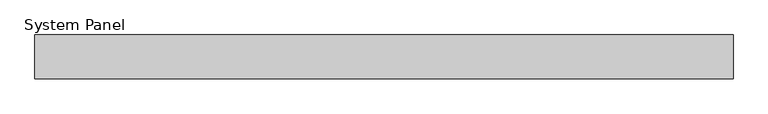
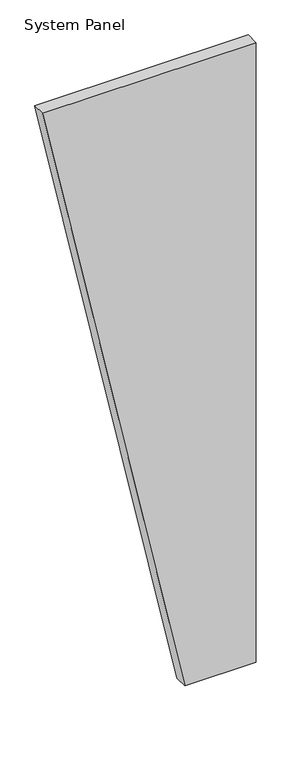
"""IFC4 building model written with IfcOpenShell, lengths in millimetres: plate geometry, System Panel : Equitilt 75mm Vertical - Plain RHEA - EPS-FR."""

import ifcopenshell
import ifcopenshell.guid

model = None  # the IFC model being written
_history = None  # IfcOwnerHistory: only IFC2X3 demands one
_inside = {}  # id of a spatial element -> (the spatial element, [elements in it])
_under = {}  # id of a project, library or spatial element -> (it, [spatial elements below it])
_declared = {}  # id of a project -> (the project, [libraries it declares])
_typed = {}  # id of a type object -> (the type object, [elements of that type])
_made_of = {}  # id of a material, layer set ... -> (it, [elements and type objects made of it])


def new_model(schema):
    """Start an empty IFC model of exactly this schema.

    Asked for "IFC4X3", IfcOpenShell would pick the latest addendum, in which some entities
    have other attributes; the version numbers below select the first issue.
    IFC2X3 requires an IfcOwnerHistory on every rooted entity: one is made here for all.
    """
    global model, _history
    if schema == "IFC4X3":
        model = ifcopenshell.file(schema_version=(4, 3, 0, 0))
    else:
        model = ifcopenshell.file(schema=schema)
    _inside.clear()
    _under.clear()
    _declared.clear()
    _typed.clear()
    _made_of.clear()
    _history = None
    if model.schema == "IFC2X3":
        org = make("IfcOrganization", Name="unknown")
        user = make(
            "IfcPersonAndOrganization",
            ThePerson=make("IfcPerson", FamilyName="unknown"),
            TheOrganization=org,
        )
        app = make(
            "IfcApplication",
            ApplicationDeveloper=org,
            Version="unknown",
            ApplicationFullName="unknown",
            ApplicationIdentifier="unknown",
        )
        _history = make(
            "IfcOwnerHistory",
            OwningUser=user,
            OwningApplication=app,
            ChangeAction="ADDED",
            CreationDate=0,
        )
    return model


def make(cls, **values):
    """One entity of the class cls with the attributes given. An attribute that is None is left unset."""
    return model.create_entity(
        cls, **{name: value for name, value in values.items() if value is not None}
    )


def rooted(cls, **values):
    """An entity with a GlobalId (a new one), such as an element, a storey or a relation."""
    return make(cls, GlobalId=ifcopenshell.guid.new(), OwnerHistory=_history, **values)


def si_unit(unit_type, name, prefix=None):
    """IfcSIUnit, for example si_unit("LENGTHUNIT", "METRE", prefix="MILLI")."""
    return make("IfcSIUnit", UnitType=unit_type, Prefix=prefix, Name=name)


def assignment(units):
    """IfcUnitAssignment: the units of a project."""
    return None if units is None else make("IfcUnitAssignment", Units=units)


def point(xyz):
    """IfcCartesianPoint."""
    return None if xyz is None else make("IfcCartesianPoint", Coordinates=xyz)


def direction(xyz):
    """IfcDirection."""
    return None if xyz is None else make("IfcDirection", DirectionRatios=xyz)


def frame(location, z_axis=None, x_axis=None):
    """IfcAxis2Placement3D, a coordinate frame: its origin and axes. An axis left out is left unset."""
    return make(
        "IfcAxis2Placement3D",
        Location=point(location),
        Axis=direction(z_axis),
        RefDirection=direction(x_axis),
    )


def origin():
    """The frame at (0, 0, 0) with its axes left unset."""
    return frame((0.0, 0.0, 0.0))


def place(relative_to, where):
    """IfcLocalPlacement: puts the frame where relative to a parent placement (None: the world)."""
    return make(
        "IfcLocalPlacement", PlacementRelTo=relative_to, RelativePlacement=where
    )


def context(
    kind, dimensions, precision=None, world=None, true_north=None, identifier=None
):
    """IfcGeometricRepresentationContext, for example the 3D "Model" context."""
    return make(
        "IfcGeometricRepresentationContext",
        ContextIdentifier=identifier,
        ContextType=kind,
        CoordinateSpaceDimension=dimensions,
        Precision=precision,
        WorldCoordinateSystem=world,
        TrueNorth=true_north,
    )


def project(units=None, contexts=None):
    """IfcProject with its units and contexts."""
    return rooted(
        "IfcProject",
        Name="project",
        RepresentationContexts=contexts,
        UnitsInContext=assignment(units),
    )


def spatial(cls, under=None, at=None, **own):
    """A site, building, storey or space (cls), placed at a placement, below another one or the project."""
    s = rooted(cls, ObjectPlacement=at, **own)
    if under is not None:
        _under.setdefault(under.id(), (under, []))[1].append(s)
    return s


def polyline(points):
    """IfcPolyline through the points."""
    return make("IfcPolyline", Points=[point(p) for p in points])


def outline(outer, holes=None, kind="AREA"):
    """IfcArbitraryClosedProfileDef: a profile drawn as a closed curve; with holes, ...WithVoids."""
    if holes is None:
        return make("IfcArbitraryClosedProfileDef", ProfileType=kind, OuterCurve=outer)
    return make(
        "IfcArbitraryProfileDefWithVoids",
        ProfileType=kind,
        OuterCurve=outer,
        InnerCurves=holes,
    )


def extrude(swept, where, along, depth):
    """IfcExtrudedAreaSolid: the profile swept, set in the frame where, extruded along a direction by depth."""
    return make(
        "IfcExtrudedAreaSolid",
        SweptArea=swept,
        Position=where,
        ExtrudedDirection=direction(along),
        Depth=depth,
    )


def shape(context_of_items, identifier, shape_type, items):
    """IfcShapeRepresentation: the items that make up one representation, for example the "Body"."""
    return make(
        "IfcShapeRepresentation",
        ContextOfItems=context_of_items,
        RepresentationIdentifier=identifier,
        RepresentationType=shape_type,
        Items=items,
    )


def source(mapping_origin, context_of_items, identifier, shape_type, items):
    """IfcRepresentationMap: a shape defined once, which mapped items show again and again."""
    return make(
        "IfcRepresentationMap",
        MappingOrigin=mapping_origin,
        MappedRepresentation=shape(context_of_items, identifier, shape_type, items),
    )


def transform(
    local_origin,
    x_axis=None,
    y_axis=None,
    z_axis=None,
    scale=None,
    scale2=None,
    scale3=None,
    uniform=True,
):
    """IfcCartesianTransformationOperator3D, or its non-uniform kind. x_axis, y_axis, z_axis: its Axis1, 2, 3."""
    if uniform:
        return make(
            "IfcCartesianTransformationOperator3D",
            Axis1=direction(x_axis),
            Axis2=direction(y_axis),
            LocalOrigin=point(local_origin),
            Scale=scale,
            Axis3=direction(z_axis),
        )
    return make(
        "IfcCartesianTransformationOperator3DnonUniform",
        Axis1=direction(x_axis),
        Axis2=direction(y_axis),
        LocalOrigin=point(local_origin),
        Scale=scale,
        Axis3=direction(z_axis),
        Scale2=scale2,
        Scale3=scale3,
    )


def mapped(mapping_source, mapping_target):
    """IfcMappedItem: shows the shape of a source again, moved by a transform."""
    return make(
        "IfcMappedItem", MappingSource=mapping_source, MappingTarget=mapping_target
    )


def made_of(thing, what):
    """Note that an element or type object is made of a material, layer set ...; save() writes the relation."""
    if what is not None:
        _made_of.setdefault(what.id(), (what, []))[1].append(thing)
    return thing


def element(
    cls,
    number,
    at=None,
    inside=None,
    cuts=None,
    type_object=None,
    material=None,
    context=None,
    identifier="Body",
    shape_type=None,
    held_by="IfcProductDefinitionShape",
    body=None,
    shapes=None,
    **own,
):
    """One element of the class cls, such as IfcWall. Its Tag is "e" and its number.

    at: its placement. inside: the storey or other place that contains it. cuts: it is an
    opening in that element (IfcRelVoidsElement). A single representation is given by context,
    identifier, shape_type and body (its items); several are given by shapes. held_by: the class
    of the entity that holds the representations. save() writes the other relations.
    """
    e = rooted(cls, Tag="e%d" % number, ObjectPlacement=at, **own)
    if body is not None:
        shapes = [shape(context, identifier, shape_type, body)]
    if shapes is not None:
        e.Representation = make(held_by, Representations=shapes)
    if inside is not None:
        _inside.setdefault(inside.id(), (inside, []))[1].append(e)
    if cuts is not None:
        rooted(
            "IfcRelVoidsElement", RelatingBuildingElement=cuts, RelatedOpeningElement=e
        )
    if type_object is not None:
        _typed.setdefault(type_object.id(), (type_object, []))[1].append(e)
    return made_of(e, material)


def aggregate(whole, parts):
    """IfcRelAggregates: a whole, such as a stair, and the parts it consists of."""
    return rooted("IfcRelAggregates", RelatingObject=whole, RelatedObjects=parts)


def save(model, path):
    """Write the relations noted so far, then the file.

    IfcRelAggregates (storeys below a building ...), IfcRelContainedInSpatialStructure (elements
    in a storey), IfcRelDefinesByType, IfcRelAssociatesMaterial and IfcRelDeclares: one each for
    every whole, place, type object, material and project.
    """
    for whole, parts in _under.values():
        aggregate(whole, parts)
    for where, things in _inside.values():
        rooted(
            "IfcRelContainedInSpatialStructure",
            RelatedElements=things,
            RelatingStructure=where,
        )
    for kind, things in _typed.values():
        rooted("IfcRelDefinesByType", RelatedObjects=things, RelatingType=kind)
    for what, things in _made_of.values():
        rooted("IfcRelAssociatesMaterial", RelatedObjects=things, RelatingMaterial=what)
    for by, libraries in _declared.values():
        rooted("IfcRelDeclares", RelatingContext=by, RelatedDefinitions=libraries)
    model.write(path)


def system_panel_276d5853(model_context):
    return source(origin(), model_context, "Body", "SweptSolid", [
        extrude(outline(polyline([(0.0, 200.0), (0.0, 600.0), (3679.9704237, 600.0), (3679.9704237, -600.0), (0.0, 200.0)])), frame((0.0, -75.0, 0.0), z_axis=(0.0, 1.0, 0.0), x_axis=(0.0, 0.0, 1.0)), (0.0, 0.0, 1.0), 75.0),
    ])


if __name__ == "__main__":
    model = new_model("IFC4")
    model_context = context("Model", 3, world=origin())
    ifc_project = project(units=[si_unit("LENGTHUNIT", "METRE", prefix="MILLI")], contexts=[model_context])
    site = spatial("IfcSite", under=ifc_project)
    building = spatial("IfcBuilding", under=site)
    placement = place(None, origin())
    system_panel_shape = system_panel_276d5853(model_context)
    element("IfcPlate", 1, ObjectType="System Panel : Equitilt 75mm Vertical - Plain RHEA - EPS-FR", at=placement, inside=building, context=model_context, shape_type="MappedRepresentation", body=[
        mapped(system_panel_shape, transform((0.0, 0.0, 0.0), x_axis=(1.0, 0.0, 0.0), y_axis=(0.0, 1.0, 0.0), z_axis=(0.0, 0.0, 1.0))),
    ])
    save(model, "model.ifc")
